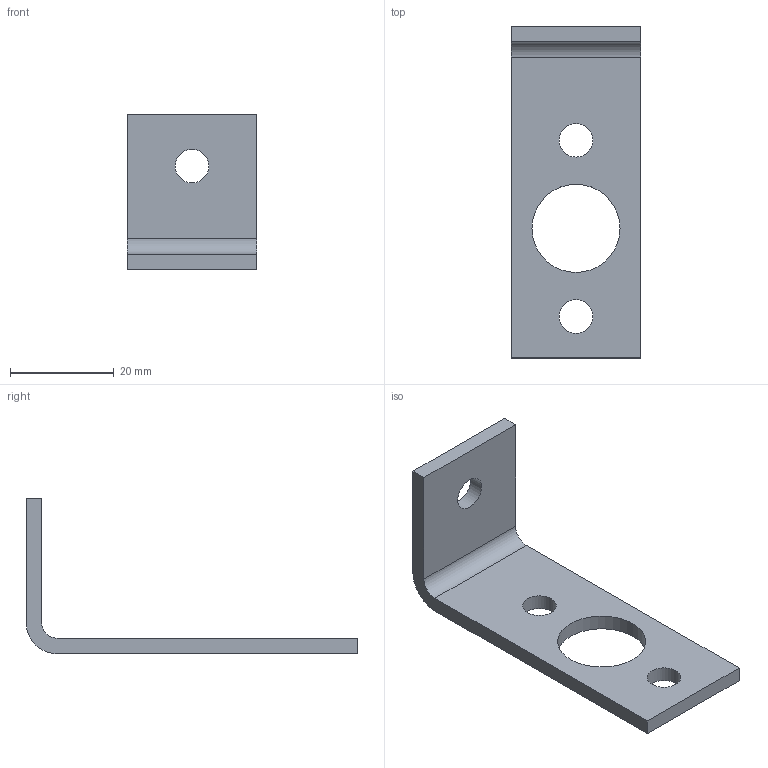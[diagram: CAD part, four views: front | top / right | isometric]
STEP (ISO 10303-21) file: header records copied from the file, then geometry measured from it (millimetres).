
FILE_DESCRIPTION((''),'2;1');
FILE_NAME('F:\AirCom-Produktdokumentation\Befestigungswinkel-Muttern\CAD\CAD AirCom\3D\B-BW00-12.stp','2008-09-29T15:41:46',('Frank Schroers'),(''),'Autodesk Inventor 2008','Autodesk Inventor 2008','');
FILE_SCHEMA(('AUTOMOTIVE_DESIGN { 1 0 10303 214 1 1 1 1 }'));
Length unit declared in the file: millimetre
Products named in the file (1): B-BW00-12
Bounding box: 25 x 64 x 30 mm (x, y, z)
Volume: 5700.6 mm3; surface area: 4828.8 mm2
Topology: 1 solids, 1 shells, 14 faces, 36 edges, 24 vertices
Faces by surface type: plane 8, cylinder 6
Full cylindrical faces by diameter (mm): 6.5 x3, 17 x1
Entity records: 454 total; most frequent: DIRECTION 74, CARTESIAN_POINT 71, ORIENTED_EDGE 64, EDGE_CURVE 32, AXIS2_PLACEMENT_3D 27, EDGE_LOOP 26, VERTEX_POINT 24, VECTOR 20
